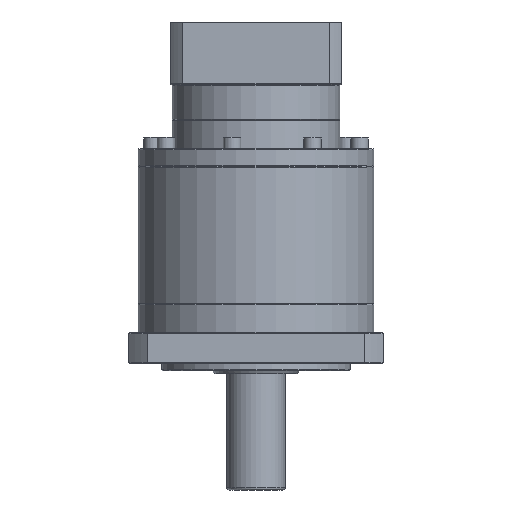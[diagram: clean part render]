
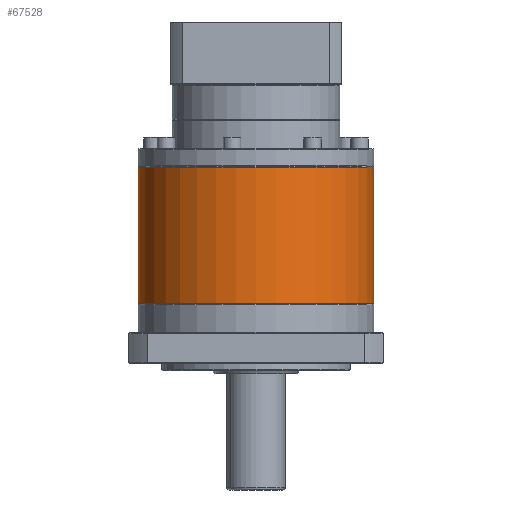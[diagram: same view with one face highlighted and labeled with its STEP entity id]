
A CAD part, front view. The second image highlights one B-rep face of the part: STEP entity #67528.
In plain terms, the highlighted cylindrical face has radius 81 mm (diameter 162 mm), a partial arc.
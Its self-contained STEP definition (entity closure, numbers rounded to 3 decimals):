
#3788 = CIRCLE ( 'NONE', #127435, 81. ) ;
#11240 = CARTESIAN_POINT ( 'NONE',  ( -61.242, 105.463, -168.864 ) ) ;
#16103 = DIRECTION ( 'NONE',  ( 0., 0., -1. ) ) ;
#20604 = EDGE_CURVE ( 'NONE', #67227, #38333, #3788, .T. ) ;
#23651 = DIRECTION ( 'NONE',  ( 0., 0., -1. ) ) ;
#29207 = VERTEX_POINT ( 'NONE', #11240 ) ;
#30750 = EDGE_CURVE ( 'NONE', #38333, #67029, #36223, .T. ) ;
#36223 = LINE ( 'NONE', #110874, #117640 ) ;
#38333 = VERTEX_POINT ( 'NONE', #88929 ) ;
#40382 = CARTESIAN_POINT ( 'NONE',  ( -142.242, 105.463, -75.364 ) ) ;
#43920 = EDGE_CURVE ( 'NONE', #67227, #29207, #121637, .T. ) ;
#44154 = ORIENTED_EDGE ( 'NONE', *, *, #30750, .T. ) ;
#47983 = CARTESIAN_POINT ( 'NONE',  ( -142.242, 105.463, -168.864 ) ) ;
#54221 = AXIS2_PLACEMENT_3D ( 'NONE', #122805, #23651, #68107 ) ;
#56165 = DIRECTION ( 'NONE',  ( 0., 0., -1. ) ) ;
#59512 = CARTESIAN_POINT ( 'NONE',  ( -223.242, 105.463, -168.864 ) ) ;
#59588 = CIRCLE ( 'NONE', #115825, 81. ) ;
#67029 = VERTEX_POINT ( 'NONE', #59512 ) ;
#67227 = VERTEX_POINT ( 'NONE', #106426 ) ;
#67528 = ADVANCED_FACE ( 'NONE', ( #75038 ), #97368, .T. ) ;
#68107 = DIRECTION ( 'NONE',  ( -1., 0., 0. ) ) ;
#69804 = DIRECTION ( 'NONE',  ( 0., 0., 1. ) ) ;
#72030 = EDGE_LOOP ( 'NONE', ( #106231, #72183, #44154, #88649 ) ) ;
#72183 = ORIENTED_EDGE ( 'NONE', *, *, #20604, .T. ) ;
#75038 = FACE_OUTER_BOUND ( 'NONE', #72030, .T. ) ;
#82732 = CARTESIAN_POINT ( 'NONE',  ( -61.242, 105.463, -74.864 ) ) ;
#85359 = DIRECTION ( 'NONE',  ( 0., 0., -1. ) ) ;
#88649 = ORIENTED_EDGE ( 'NONE', *, *, #140499, .T. ) ;
#88929 = CARTESIAN_POINT ( 'NONE',  ( -223.242, 105.463, -75.364 ) ) ;
#97368 = CYLINDRICAL_SURFACE ( 'NONE', #54221, 81. ) ;
#102621 = VECTOR ( 'NONE', #16103, 1000. ) ;
#106231 = ORIENTED_EDGE ( 'NONE', *, *, #43920, .F. ) ;
#106426 = CARTESIAN_POINT ( 'NONE',  ( -61.242, 105.463, -75.364 ) ) ;
#110874 = CARTESIAN_POINT ( 'NONE',  ( -223.242, 105.463, -74.864 ) ) ;
#113870 = DIRECTION ( 'NONE',  ( -1., 0., 0. ) ) ;
#115825 = AXIS2_PLACEMENT_3D ( 'NONE', #47983, #69804, #113870 ) ;
#117640 = VECTOR ( 'NONE', #56165, 1000. ) ;
#121637 = LINE ( 'NONE', #82732, #102621 ) ;
#122805 = CARTESIAN_POINT ( 'NONE',  ( -142.242, 105.463, -74.864 ) ) ;
#127435 = AXIS2_PLACEMENT_3D ( 'NONE', #40382, #85359, #129907 ) ;
#129907 = DIRECTION ( 'NONE',  ( -1., 0., 0. ) ) ;
#140499 = EDGE_CURVE ( 'NONE', #67029, #29207, #59588, .T. ) ;
